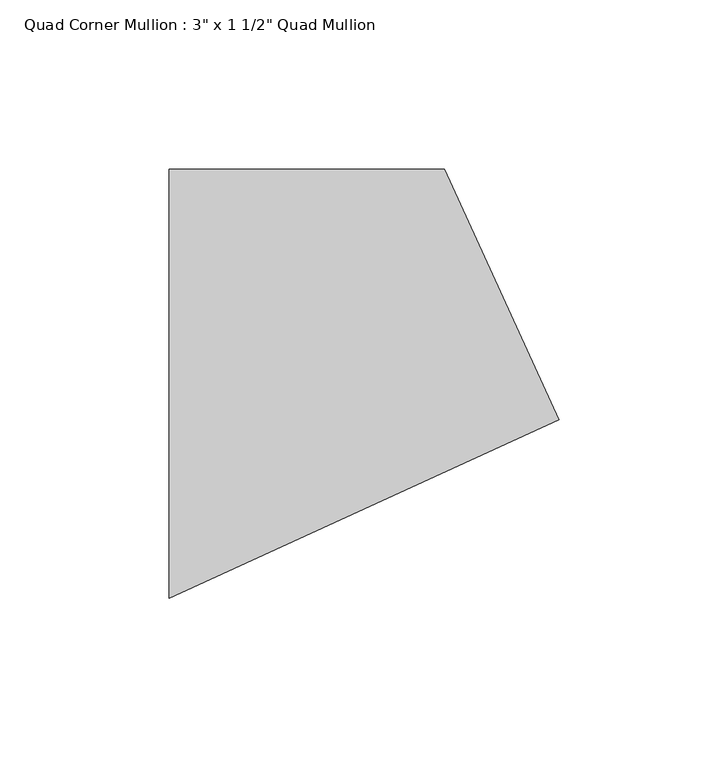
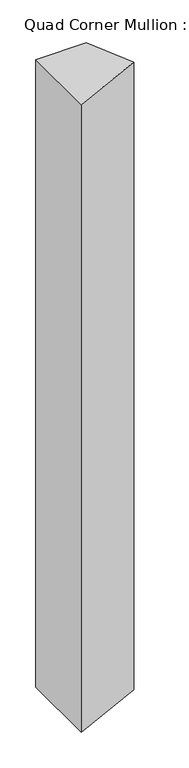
"""IFC4 building model written with IfcOpenShell, lengths in millimetres: member geometry."""

from ifc_helpers import new_model, si_unit, frame, origin, place, context, project, spatial, polyline, outline, extrude, source, transform, mapped, element, save


def member_319d761a(model_context):
    return source(origin(), model_context, "Body", "SweptSolid", [
        extrude(outline(polyline([(74.7078921, -10.6493518), (-40.7728811, -63.5), (-40.7728811, 63.5), (40.7728811, 63.5), (74.7078921, -10.6493518)])), frame((0.0, 0.0, -1070.0080051), z_axis=(0.0, 0.0, 1.0), x_axis=(1.0, 0.0, 0.0)), (0.0, 0.0, 1.0), 1070.0080051),
    ])


if __name__ == "__main__":
    model = new_model("IFC4")
    model_context = context("Model", 3, world=origin())
    ifc_project = project(units=[si_unit("LENGTHUNIT", "METRE", prefix="MILLI")], contexts=[model_context])
    site = spatial("IfcSite", under=ifc_project)
    building = spatial("IfcBuilding", under=site)
    placement = place(None, origin())
    member_shape = member_319d761a(model_context)
    element("IfcMember", 1, ObjectType="Quad Corner Mullion : 3\" x 1 1/2\" Quad Mullion", at=placement, inside=building, context=model_context, shape_type="MappedRepresentation", body=[
        mapped(member_shape, transform((0.0, 0.0, 0.0), x_axis=(1.0, 0.0, 0.0), y_axis=(0.0, 1.0, 0.0), z_axis=(0.0, 0.0, 1.0))),
    ])
    save(model, "model.ifc")
